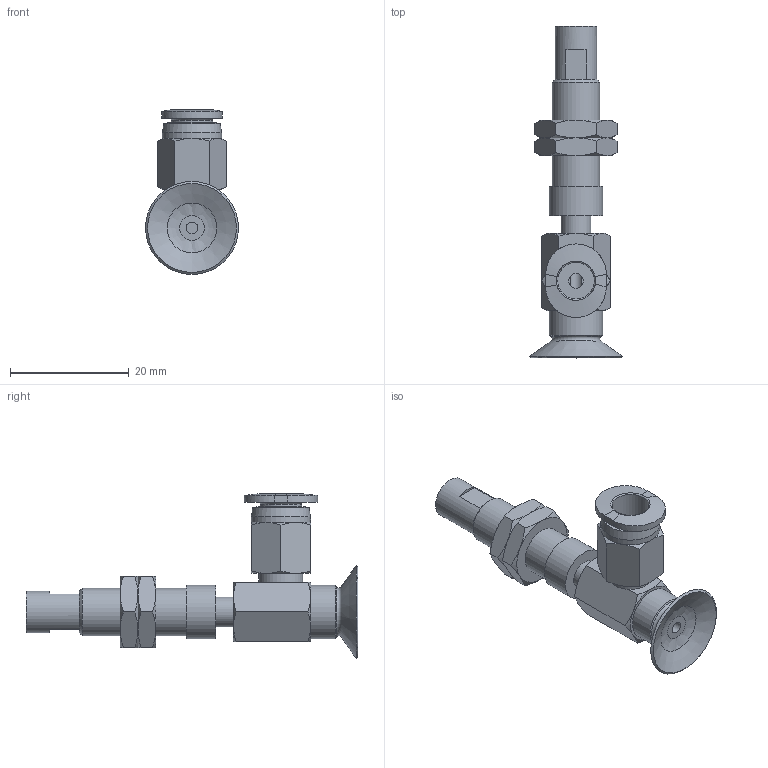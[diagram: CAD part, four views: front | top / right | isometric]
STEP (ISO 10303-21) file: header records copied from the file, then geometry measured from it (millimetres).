
FILE_DESCRIPTION(('STEP AP203'),'1');
FILE_NAME('-O.stp','2025-04-09T07:00:02',(' '),(' '),'Spatial InterOp 3D',' ',' ');
FILE_SCHEMA(('CONFIG_CONTROL_DESIGN'));
Length unit declared in the file: millimetre
Products named in the file (7): BNABPFYS-15A-3-※-O; CONNECTOR-15A-3; Nut-15A-3-s; NAPFTS-15A-3-FBODY; NAPFTS-15A-3-MBODY; BPFG-15A-※; PC-C_06-M5
Assembly tree (7 placements, depth 2):
  BNABPFYS-15A-3-※-O
    CONNECTOR-15A-3
    Nut-15A-3-s  x2
    NAPFTS-15A-3-FBODY
    NAPFTS-15A-3-MBODY
    BPFG-15A-※
    PC-C_06-M5
Bounding box: 15.7 x 56 x 27.83 mm (x, y, z)
Volume: 3498.6 mm3; surface area: 5348.4 mm2
Topology: 6 solids, 9 shells, 180 faces, 372 edges, 224 vertices
Faces by surface type: plane 68, cone 67, cylinder 26, torus 11, bspline 5, revolution 3
Full cylindrical faces by diameter (mm): 2 x2, 4 x4, 4.134 x2, 5 x4, 6 x2, 7 x2, 7.188 x2, 7.4 x1, 8 x1, 8.2 x1, 9 x2, 10 x1
Entity records: 4643 total; most frequent: CARTESIAN_POINT 1339, DIRECTION 615, ORIENTED_EDGE 522, AXIS2_PLACEMENT_3D 277, EDGE_CURVE 263, EDGE_LOOP 236, VERTEX_POINT 187, FACE_OUTER_BOUND 132
